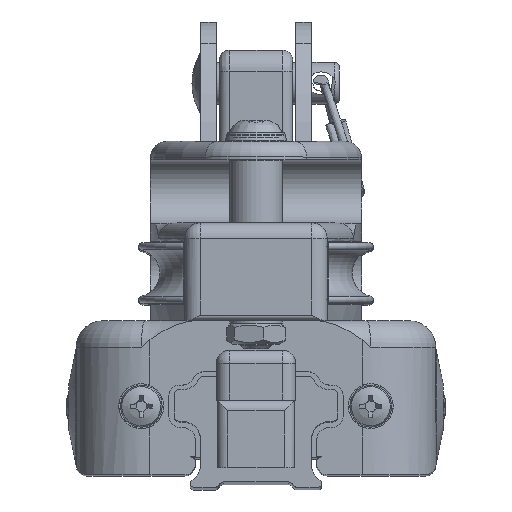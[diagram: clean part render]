
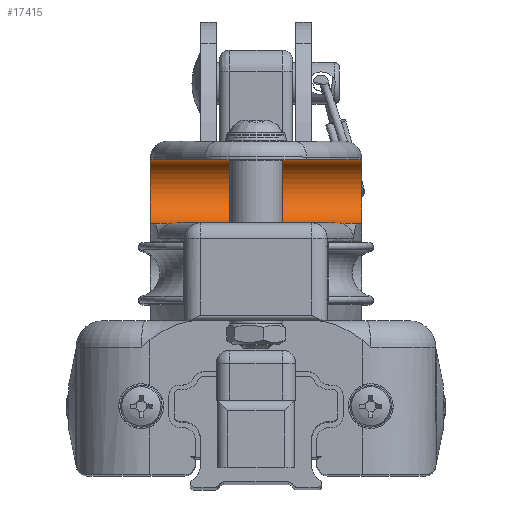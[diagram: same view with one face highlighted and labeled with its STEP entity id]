
A CAD part, top view. The second image highlights one B-rep face of the part: STEP entity #17415.
In plain terms, the highlighted cylindrical face has radius 6 mm (diameter 12 mm), a partial arc.
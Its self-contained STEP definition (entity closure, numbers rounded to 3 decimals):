
#741=B_SPLINE_CURVE_WITH_KNOTS('',3,(#32712,#32713,#32714,#32715),
 .UNSPECIFIED.,.F.,.F.,(4,4),(0.904,1.09),
 .UNSPECIFIED.);
#752=B_SPLINE_CURVE_WITH_KNOTS('',3,(#32955,#32956,#32957,#32958),
 .UNSPECIFIED.,.F.,.F.,(4,4),(2.526,2.712),
 .UNSPECIFIED.);
#780=B_SPLINE_CURVE_WITH_KNOTS('',3,(#33436,#33437,#33438,#33439),
 .UNSPECIFIED.,.F.,.F.,(4,4),(2.526,2.712),
 .UNSPECIFIED.);
#781=B_SPLINE_CURVE_WITH_KNOTS('',3,(#33442,#33443,#33444,#33445),
 .UNSPECIFIED.,.F.,.F.,(4,4),(2.526,2.712),
 .UNSPECIFIED.);
#1724=LINE('',#32723,#2834);
#1806=LINE('',#33381,#2916);
#2834=VECTOR('',#24138,10.);
#2916=VECTOR('',#24496,10.);
#3330=CYLINDRICAL_SURFACE('',#19463,6.);
#4267=FACE_OUTER_BOUND('',#5306,.T.);
#5306=EDGE_LOOP('',(#15609,#15610,#15611,#15612,#15613,#15614,#15615,#15616));
#6337=CIRCLE('',#19358,6.);
#6389=CIRCLE('',#19464,6.);
#7913=VERTEX_POINT('',#32709);
#7914=VERTEX_POINT('',#32711);
#7916=VERTEX_POINT('',#32722);
#7963=VERTEX_POINT('',#32946);
#7965=VERTEX_POINT('',#32953);
#8038=VERTEX_POINT('',#33379);
#8047=VERTEX_POINT('',#33435);
#8048=VERTEX_POINT('',#33440);
#10412=EDGE_CURVE('',#7914,#7913,#741,.T.);
#10416=EDGE_CURVE('',#7916,#7914,#1724,.T.);
#10482=EDGE_CURVE('',#7913,#7963,#6337,.T.);
#10486=EDGE_CURVE('',#7963,#7965,#752,.T.);
#10607=EDGE_CURVE('',#7965,#8038,#1806,.T.);
#10622=EDGE_CURVE('',#8047,#8038,#780,.T.);
#10623=EDGE_CURVE('',#8047,#8048,#6389,.T.);
#10624=EDGE_CURVE('',#8048,#7916,#781,.T.);
#15609=ORIENTED_EDGE('',*,*,#10607,.T.);
#15610=ORIENTED_EDGE('',*,*,#10622,.F.);
#15611=ORIENTED_EDGE('',*,*,#10623,.T.);
#15612=ORIENTED_EDGE('',*,*,#10624,.T.);
#15613=ORIENTED_EDGE('',*,*,#10416,.T.);
#15614=ORIENTED_EDGE('',*,*,#10412,.T.);
#15615=ORIENTED_EDGE('',*,*,#10482,.T.);
#15616=ORIENTED_EDGE('',*,*,#10486,.T.);
#17415=ADVANCED_FACE('',(#4267),#3330,.F.);
#19358=AXIS2_PLACEMENT_3D('',#32948,#24254,#24255);
#19463=AXIS2_PLACEMENT_3D('',#33434,#24522,#24523);
#19464=AXIS2_PLACEMENT_3D('',#33441,#24524,#24525);
#24138=DIRECTION('',(-1.,0.,0.));
#24254=DIRECTION('center_axis',(-1.,0.,0.));
#24255=DIRECTION('ref_axis',(0.,-1.,0.));
#24496=DIRECTION('',(1.,0.,0.));
#24522=DIRECTION('center_axis',(-1.,0.,0.));
#24523=DIRECTION('ref_axis',(0.,-1.,0.));
#24524=DIRECTION('center_axis',(1.,0.,0.));
#24525=DIRECTION('ref_axis',(0.,-1.,0.));
#32709=CARTESIAN_POINT('',(-20.,61.891,58.1));
#32711=CARTESIAN_POINT('',(-19.991,62.2,60.));
#32712=CARTESIAN_POINT('Ctrl Pts',(-19.991,62.2,60.));
#32713=CARTESIAN_POINT('Ctrl Pts',(-19.997,62.2,59.379));
#32714=CARTESIAN_POINT('Ctrl Pts',(-20.,62.1,58.724));
#32715=CARTESIAN_POINT('Ctrl Pts',(-20.,61.891,58.1));
#32722=CARTESIAN_POINT('',(19.991,62.2,60.));
#32723=CARTESIAN_POINT('',(0.,62.2,60.));
#32946=CARTESIAN_POINT('',(-20.,50.509,58.1));
#32948=CARTESIAN_POINT('Origin',(-20.,56.2,60.));
#32953=CARTESIAN_POINT('',(-19.991,50.2,60.));
#32955=CARTESIAN_POINT('Ctrl Pts',(-20.,50.509,58.1));
#32956=CARTESIAN_POINT('Ctrl Pts',(-20.,50.3,58.724));
#32957=CARTESIAN_POINT('Ctrl Pts',(-19.997,50.2,59.379));
#32958=CARTESIAN_POINT('Ctrl Pts',(-19.991,50.2,60.));
#33379=CARTESIAN_POINT('',(19.991,50.2,60.));
#33381=CARTESIAN_POINT('',(0.,50.2,60.));
#33434=CARTESIAN_POINT('Origin',(0.,56.2,
60.));
#33435=CARTESIAN_POINT('',(20.,50.509,58.1));
#33436=CARTESIAN_POINT('Ctrl Pts',(20.,50.509,58.1));
#33437=CARTESIAN_POINT('Ctrl Pts',(20.,50.3,58.724));
#33438=CARTESIAN_POINT('Ctrl Pts',(19.997,50.2,59.379));
#33439=CARTESIAN_POINT('Ctrl Pts',(19.991,50.2,60.));
#33440=CARTESIAN_POINT('',(20.,61.891,58.1));
#33441=CARTESIAN_POINT('Origin',(20.,56.2,60.));
#33442=CARTESIAN_POINT('Ctrl Pts',(20.,61.891,58.1));
#33443=CARTESIAN_POINT('Ctrl Pts',(20.,62.1,58.724));
#33444=CARTESIAN_POINT('Ctrl Pts',(19.997,62.2,59.379));
#33445=CARTESIAN_POINT('Ctrl Pts',(19.991,62.2,60.));
